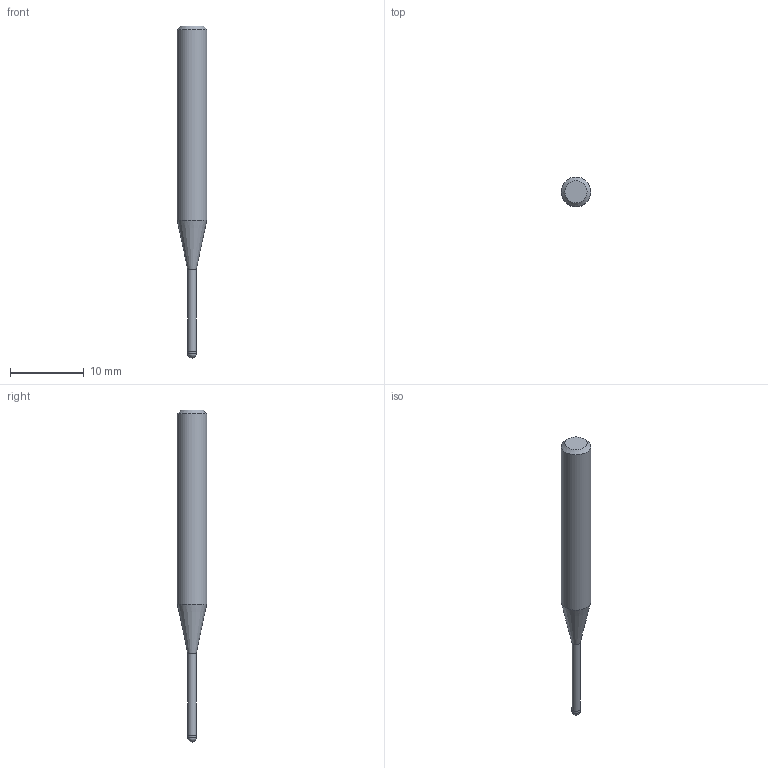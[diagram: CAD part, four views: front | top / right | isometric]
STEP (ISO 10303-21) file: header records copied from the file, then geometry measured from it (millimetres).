
FILE_DESCRIPTION((''),'2;1');
FILE_NAME('C:\Users\nsx150\AppData\Local\Temp\Mastercam 2021\ARV7HD45SN\TEMP.step','2023-06-13T16:36:04',(''),(''),'STEP Write','Mastercam 2021 ... CNC Software, Inc.','');
FILE_SCHEMA(('AUTOMOTIVE_DESIGN'));
Length unit declared in the file: millimetre
Products named in the file (1): None
Bounding box: 4 x 4 x 45 mm (x, y, z)
Volume: 379.8 mm3; surface area: 440.1 mm2
Topology: 2 solids, 2 shells, 9 faces, 14 edges, 8 vertices
Faces by surface type: plane 3, cylinder 3, cone 2, sphere 1
Full cylindrical faces by diameter (mm): 1.15 x1, 1.2 x1, 4 x1
Entity records: 211 total; most frequent: DIRECTION 36, CARTESIAN_POINT 25, AXIS2_PLACEMENT_3D 18, ORIENTED_EDGE 14, EDGE_LOOP 14, STYLED_ITEM 12, ADVANCED_FACE 9, FACE_BOUND 8
